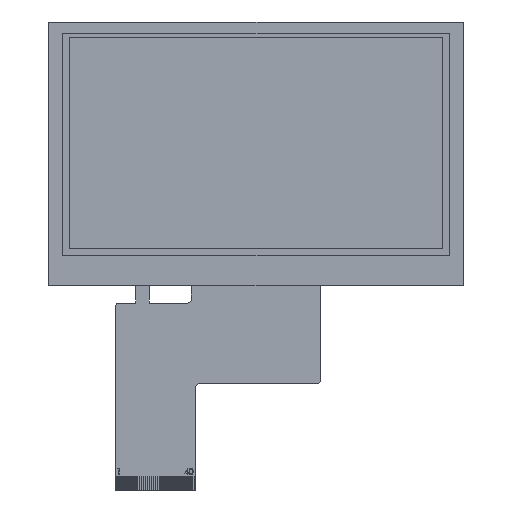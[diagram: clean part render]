
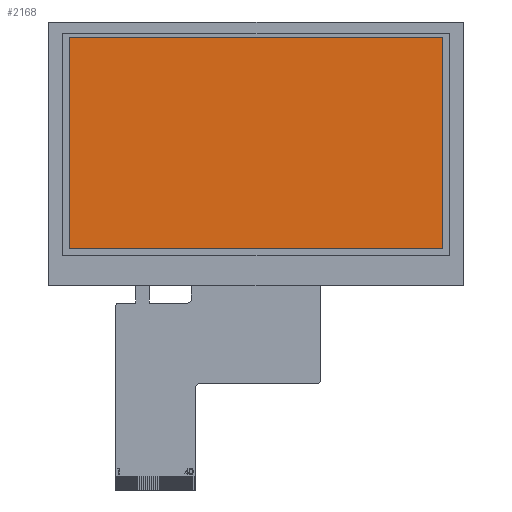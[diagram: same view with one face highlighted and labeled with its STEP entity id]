
A CAD part, top view. The second image highlights one B-rep face of the part: STEP entity #2168.
In plain terms, the highlighted planar face has unit normal (0, 0, 1).
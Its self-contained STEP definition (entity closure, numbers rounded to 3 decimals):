
#189 = VERTEX_POINT ( 'NONE', #892 ) ;
#510 = VERTEX_POINT ( 'NONE', #5773 ) ;
#667 = VECTOR ( 'NONE', #1481, 1000. ) ;
#730 = CARTESIAN_POINT ( 'NONE',  ( 0., -3.9, 2.9 ) ) ;
#892 = CARTESIAN_POINT ( 'NONE',  ( 5.23, -3.9, 2.9 ) ) ;
#921 = CARTESIAN_POINT ( 'NONE',  ( 5.23, 0., 2.9 ) ) ;
#1116 = DIRECTION ( 'NONE',  ( 0., 0., 1. ) ) ;
#1481 = DIRECTION ( 'NONE',  ( -1., 0., 0. ) ) ;
#2081 = FACE_OUTER_BOUND ( 'NONE', #9071, .T. ) ;
#2155 = VERTEX_POINT ( 'NONE', #2670 ) ;
#2168 = ADVANCED_FACE ( 'NONE', ( #2081 ), #8598, .T. ) ;
#2186 = EDGE_CURVE ( 'NONE', #510, #3717, #8096, .T. ) ;
#2260 = ORIENTED_EDGE ( 'NONE', *, *, #2186, .F. ) ;
#2628 = ORIENTED_EDGE ( 'NONE', *, *, #3719, .F. ) ;
#2670 = CARTESIAN_POINT ( 'NONE',  ( 100.27, -3.9, 2.9 ) ) ;
#3005 = ORIENTED_EDGE ( 'NONE', *, *, #6991, .F. ) ;
#3396 = LINE ( 'NONE', #3456, #9888 ) ;
#3456 = CARTESIAN_POINT ( 'NONE',  ( 100.27, 0., 2.9 ) ) ;
#3717 = VERTEX_POINT ( 'NONE', #4157 ) ;
#3719 = EDGE_CURVE ( 'NONE', #3717, #189, #7700, .T. ) ;
#4157 = CARTESIAN_POINT ( 'NONE',  ( 5.23, -57.76, 2.9 ) ) ;
#4407 = DIRECTION ( 'NONE',  ( 1., 0., 0. ) ) ;
#5615 = DIRECTION ( 'NONE',  ( 1., 0., 0. ) ) ;
#5719 = ORIENTED_EDGE ( 'NONE', *, *, #9942, .F. ) ;
#5773 = CARTESIAN_POINT ( 'NONE',  ( 100.27, -57.76, 2.9 ) ) ;
#5978 = VECTOR ( 'NONE', #6697, 1000. ) ;
#6697 = DIRECTION ( 'NONE',  ( 0., 1., 0. ) ) ;
#6991 = EDGE_CURVE ( 'NONE', #2155, #510, #3396, .T. ) ;
#7055 = VECTOR ( 'NONE', #5615, 1000. ) ;
#7651 = AXIS2_PLACEMENT_3D ( 'NONE', #7785, #1116, #4407 ) ;
#7700 = LINE ( 'NONE', #921, #5978 ) ;
#7785 = CARTESIAN_POINT ( 'NONE',  ( 0., 0., 2.9 ) ) ;
#8096 = LINE ( 'NONE', #8987, #667 ) ;
#8413 = DIRECTION ( 'NONE',  ( 0., -1., 0. ) ) ;
#8598 = PLANE ( 'NONE',  #7651 ) ;
#8983 = LINE ( 'NONE', #730, #7055 ) ;
#8987 = CARTESIAN_POINT ( 'NONE',  ( 0., -57.76, 2.9 ) ) ;
#9071 = EDGE_LOOP ( 'NONE', ( #2628, #2260, #3005, #5719 ) ) ;
#9888 = VECTOR ( 'NONE', #8413, 1000. ) ;
#9942 = EDGE_CURVE ( 'NONE', #189, #2155, #8983, .T. ) ;
